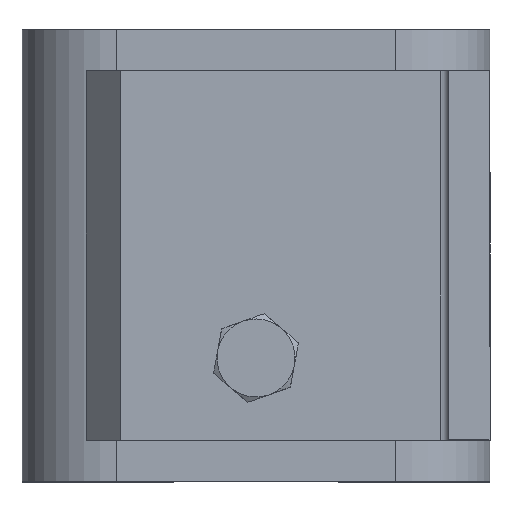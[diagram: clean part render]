
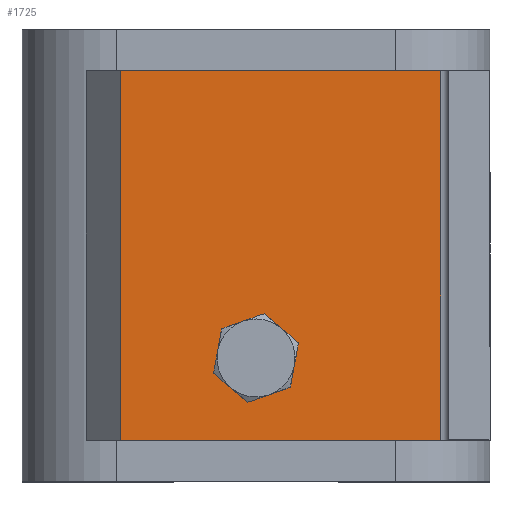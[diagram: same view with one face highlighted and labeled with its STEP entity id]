
A CAD part, top view. The second image highlights one B-rep face of the part: STEP entity #1725.
In plain terms, the highlighted planar face has unit normal (0, 0, 1) as drawn and (0, 0, -1) by its records, which use the part's own axes.
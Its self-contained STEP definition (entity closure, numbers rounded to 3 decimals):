
#68=FACE_BOUND('',#348,.T.);
#212=FACE_OUTER_BOUND('',#347,.T.);
#347=EDGE_LOOP('',(#1452,#1453,#1454,#1455));
#348=EDGE_LOOP('',(#1456));
#437=CIRCLE('',#1897,9.);
#570=LINE('',#2821,#720);
#573=LINE('',#2827,#723);
#578=LINE('',#2839,#728);
#579=LINE('',#2840,#729);
#720=VECTOR('',#2329,90.);
#723=VECTOR('',#2336,78.);
#728=VECTOR('',#2347,78.);
#729=VECTOR('',#2348,90.);
#846=VERTEX_POINT('',#2803);
#849=VERTEX_POINT('',#2811);
#853=VERTEX_POINT('',#2826);
#857=VERTEX_POINT('',#2838);
#858=VERTEX_POINT('',#2841);
#1055=EDGE_CURVE('',#849,#846,#570,.T.);
#1058=EDGE_CURVE('',#849,#853,#573,.T.);
#1064=EDGE_CURVE('',#857,#846,#578,.T.);
#1065=EDGE_CURVE('',#853,#857,#579,.T.);
#1066=EDGE_CURVE('',#858,#858,#437,.T.);
#1452=ORIENTED_EDGE('',*,*,#1055,.T.);
#1453=ORIENTED_EDGE('',*,*,#1064,.F.);
#1454=ORIENTED_EDGE('',*,*,#1065,.F.);
#1455=ORIENTED_EDGE('',*,*,#1058,.F.);
#1456=ORIENTED_EDGE('',*,*,#1066,.T.);
#1623=PLANE('',#1896);
#1725=ADVANCED_FACE('',(#212,#68),#1623,.F.);
#1896=AXIS2_PLACEMENT_3D('',#2837,#2345,#2346);
#1897=AXIS2_PLACEMENT_3D('',#2842,#2349,#2350);
#2329=DIRECTION('',(1.,0.,0.));
#2336=DIRECTION('',(0.,-1.,0.));
#2345=DIRECTION('center_axis',(0.,0.,1.));
#2346=DIRECTION('ref_axis',(1.,0.,0.));
#2347=DIRECTION('',(0.,1.,0.));
#2348=DIRECTION('',(1.,0.,0.));
#2349=DIRECTION('center_axis',(0.,0.,1.));
#2350=DIRECTION('ref_axis',(-1.,0.,0.));
#2803=CARTESIAN_POINT('',(45.,5.,-10.));
#2811=CARTESIAN_POINT('',(-45.,5.,-10.));
#2821=CARTESIAN_POINT('',(-22.5,5.,-10.));
#2826=CARTESIAN_POINT('',(-45.,-73.,-10.));
#2827=CARTESIAN_POINT('',(-45.,-73.,-10.));
#2837=CARTESIAN_POINT('Origin',(0.,0.,
-10.));
#2838=CARTESIAN_POINT('',(45.,-73.,-10.));
#2839=CARTESIAN_POINT('',(45.,73.,-10.));
#2840=CARTESIAN_POINT('',(45.,-73.,-10.));
#2841=CARTESIAN_POINT('',(-34.,-40.,-10.));
#2842=CARTESIAN_POINT('Origin',(-25.,-40.,-10.));
